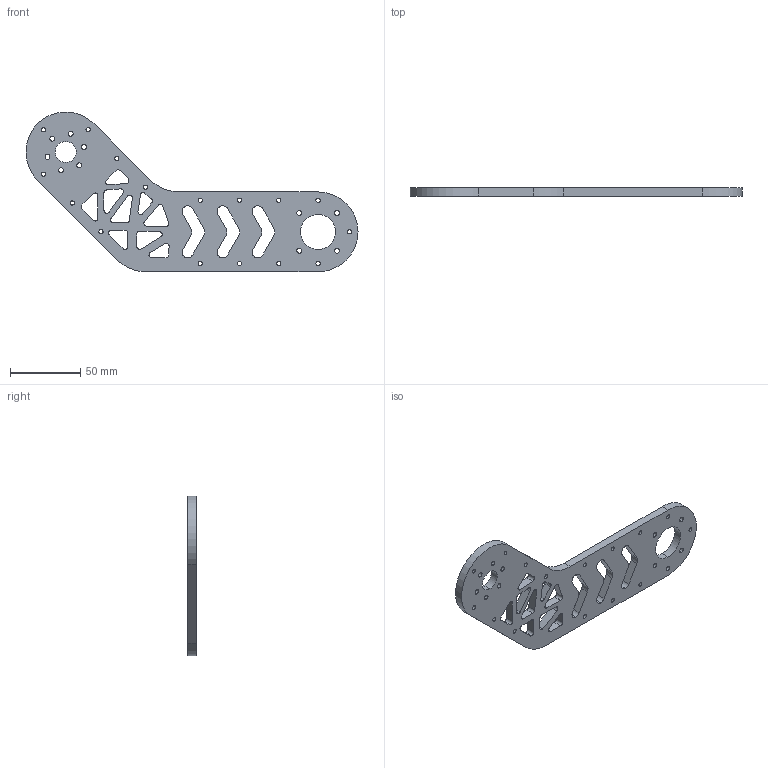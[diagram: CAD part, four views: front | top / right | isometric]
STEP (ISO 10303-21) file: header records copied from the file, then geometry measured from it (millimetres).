
FILE_DESCRIPTION (( 'STEP AP203' ), '1' );
FILE_NAME ('三四轴连杆.STEP', '2024-12-24T14:40:33', ( '' ), ( '' ), 'SwSTEP 2.0', 'SolidWorks 2022', '' );
FILE_SCHEMA (( 'CONFIG_CONTROL_DESIGN' ));
Length unit declared in the file: millimetre
Products named in the file (1): 三四轴连杆
Bounding box: 236.89 x 6 x 113.89 mm (x, y, z)
Volume: 66423.2 mm3; surface area: 32223.4 mm2
Topology: 1 solids, 1 shells, 160 faces, 474 edges, 316 vertices
Faces by surface type: cylinder 115, plane 45
Entity records: 5705 total; most frequent: DIRECTION 1026, CARTESIAN_POINT 951, ORIENTED_EDGE 948, EDGE_CURVE 474, AXIS2_PLACEMENT_3D 391, VERTEX_POINT 316, LINE 244, VECTOR 244
